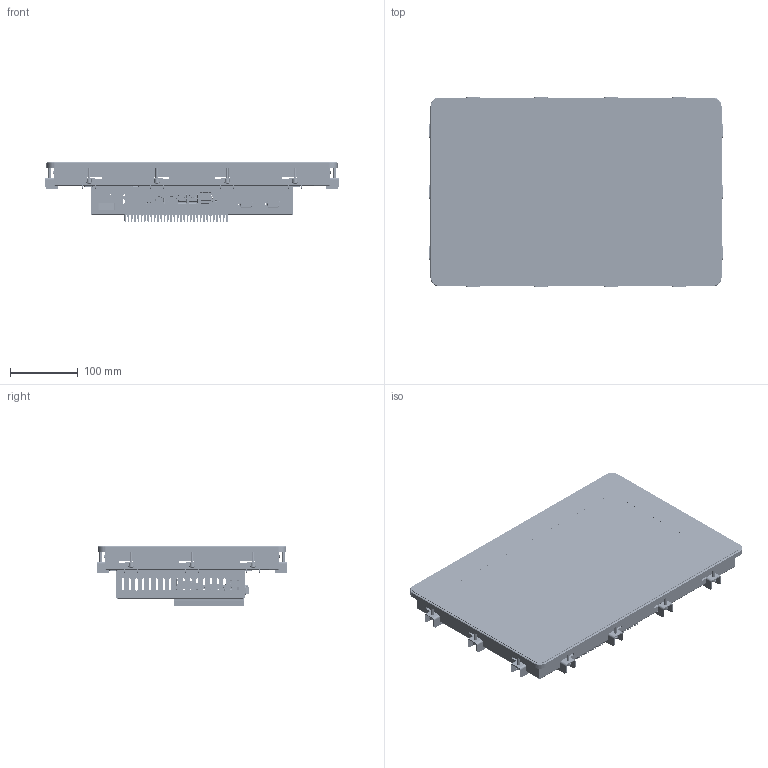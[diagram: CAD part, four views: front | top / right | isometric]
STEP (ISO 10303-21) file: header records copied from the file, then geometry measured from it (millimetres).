
FILE_DESCRIPTION (( 'STEP AP203' ), '1' );
FILE_NAME ('S156-51.STEP', '2026-03-05T14:56:14', ( '' ), ( '' ), 'SwSTEP 2.0', 'SolidWorks 2025', '' );
FILE_SCHEMA (( 'CONFIG_CONTROL_DESIGN' ));
Length unit declared in the file: millimetre
Products named in the file (26): LE-374_RS232_RS 446-462; BC-JNF835-10 Backcover; 2.5'''' HDD; JNF835-heatspreader; G156HCE-L01; MP-156-10 Mounting plate; IOPC-10 Power button panelmount connector; SO4-M4-6 Inpersafstandsteun; PPC-JNF835-00_IRtouch panelmount; PF-156-10 Panelframe; DIN EN ISO 7046-1 - M3 x 6 - Z - 6N_DIN EN ISO 7046-1 - M3 x 6 - Z - 6N; DIN EN ISO 7045 - M4 x 20 - Z - 20N_DIN EN ISO 7045 - M4 x 20 - Z - 20N; TF-F-M3 Inpersmoer; Celrubber 3x6^PC156-00 Assembly; inpersmoer_M3-plaat1mm; PC156-00 Assembly_S156-51; JNF835-mainboard-assm; MBR-10 Mounting bracket; S156-51; PPC177-11 Heatsink JNF835; Rocker switch; S156-10 Bezel; RTPC156WF1-R1-30BP1-C-ROCK
Assembly tree (76 placements, depth 4):
  S156-51
    PC156-00 Assembly_S156-51
      MP-156-10 Mounting plate
        MP-156-10 Mounting plate
        inpersmoer_M3-plaat1mm  x12
      PF-156-10 Panelframe
        PF-156-10 Panelframe
        TF-F-M3 Inpersmoer  x14
      MBR-10 Mounting bracket  x14
        MBR-10 Mounting bracket
        SO4-M4-6 Inpersafstandsteun
        DIN EN ISO 7045 - M4 x 20 - Z - 20N_DIN EN ISO 7045 - M4 x 20 - Z - 20N
      DIN EN ISO 7046-1 - M3 x 6 - Z - 6N_DIN EN ISO 7046-1 - M3 x 6 - Z - 6N  x14
      G156HCE-L01
      Celrubber 3x6^PC156-00 Assembly
      PPC-JNF835-00_IRtouch panelmount
        2.5'''' HDD
        Rocker switch
        LE-374_RS232_RS 446-462  x2
        BC-JNF835-10 Backcover
        JNF835-mainboard-assm
        JNF835-heatspreader
        PPC177-11 Heatsink JNF835
        IOPC-10 Power button panelmount connector
    S156-10 Bezel
    RTPC156WF1-R1-30BP1-C-ROCK
Bounding box: 433 x 282 x 89.35 mm (x, y, z)
Volume: 1654016.3 mm3; surface area: 1206853.4 mm2
Topology: 97 solids, 687 shells, 11455 faces, 44383 edges, 33061 vertices
Faces by surface type: bspline 7985, plane 2181, cylinder 973, cone 240, torus 62, sphere 14
Full cylindrical faces by diameter (mm): 0.92 x18, 1.95 x2, 2.5 x47, 3 x26, 3.2 x9, 3.3 x4, 3.4 x8, 3.5 x20, 4 x28, 4.2 x12, 4.4 x20, 4.42 x6, 4.5 x20, 4.8 x8, 5.5 x14, 6.3 x12, 6.5 x2, 7 x1, 7.1 x14, 7.22 x14, 8 x18
Entity records: 432568 total; most frequent: CARTESIAN_POINT 132823, ORIENTED_EDGE 58202, DIRECTION 47448, EDGE_CURVE 39788, VECTOR 31480, LINE 31480, VERTEX_POINT 30310, EDGE_LOOP 11135
